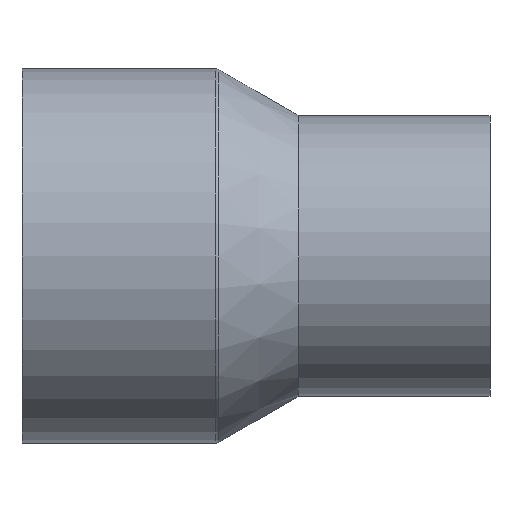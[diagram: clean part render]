
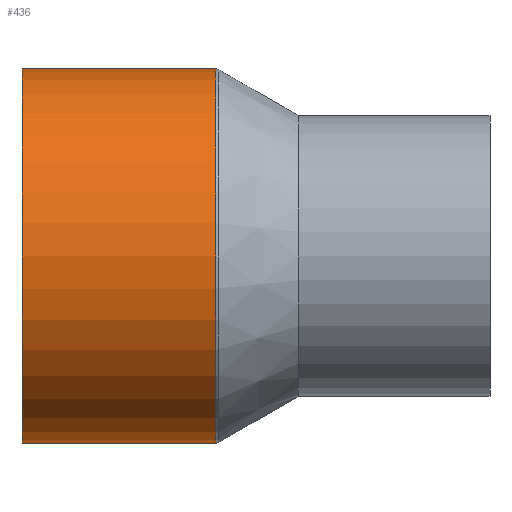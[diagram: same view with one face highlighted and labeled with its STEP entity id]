
A CAD part, front view. The second image highlights one B-rep face of the part: STEP entity #436.
In plain terms, the highlighted cylindrical face has radius 25.4 mm (diameter 50.8 mm), a partial arc.
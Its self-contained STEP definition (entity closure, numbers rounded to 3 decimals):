
#5 = CARTESIAN_POINT ( 'NONE',  ( -37.213, 0., 25.4 ) ) ;
#30 = CARTESIAN_POINT ( 'NONE',  ( -37.213, 0., 0. ) ) ;
#32 = CARTESIAN_POINT ( 'NONE',  ( -63.5, 0., 25.4 ) ) ;
#54 = VERTEX_POINT ( 'NONE', #370 ) ;
#59 = FACE_OUTER_BOUND ( 'NONE', #297, .T. ) ;
#64 = ORIENTED_EDGE ( 'NONE', *, *, #494, .F. ) ;
#73 = DIRECTION ( 'NONE',  ( 0., 0., 1. ) ) ;
#84 = ORIENTED_EDGE ( 'NONE', *, *, #125, .T. ) ;
#94 = CIRCLE ( 'NONE', #214, 25.4 ) ;
#96 = VERTEX_POINT ( 'NONE', #434 ) ;
#111 = CARTESIAN_POINT ( 'NONE',  ( 0., 0., -25.4 ) ) ;
#117 = DIRECTION ( 'NONE',  ( 1., 0., 0. ) ) ;
#125 = EDGE_CURVE ( 'NONE', #96, #54, #496, .T. ) ;
#183 = DIRECTION ( 'NONE',  ( 1., 0., 0. ) ) ;
#214 = AXIS2_PLACEMENT_3D ( 'NONE', #426, #183, #474 ) ;
#227 = DIRECTION ( 'NONE',  ( 0., 0., -1. ) ) ;
#258 = VERTEX_POINT ( 'NONE', #5 ) ;
#271 = DIRECTION ( 'NONE',  ( 1., 0., 0. ) ) ;
#293 = AXIS2_PLACEMENT_3D ( 'NONE', #30, #305, #73 ) ;
#297 = EDGE_LOOP ( 'NONE', ( #64, #320, #84, #413 ) ) ;
#305 = DIRECTION ( 'NONE',  ( -1., 0., 0. ) ) ;
#307 = CARTESIAN_POINT ( 'NONE',  ( 0., 0., 0. ) ) ;
#320 = ORIENTED_EDGE ( 'NONE', *, *, #376, .T. ) ;
#360 = CYLINDRICAL_SURFACE ( 'NONE', #489, 25.4 ) ;
#370 = CARTESIAN_POINT ( 'NONE',  ( -37.213, 0., -25.4 ) ) ;
#375 = LINE ( 'NONE', #517, #464 ) ;
#376 = EDGE_CURVE ( 'NONE', #433, #96, #94, .T. ) ;
#389 = VECTOR ( 'NONE', #117, 1000. ) ;
#390 = DIRECTION ( 'NONE',  ( 1., 0., 0. ) ) ;
#403 = EDGE_CURVE ( 'NONE', #54, #258, #503, .T. ) ;
#413 = ORIENTED_EDGE ( 'NONE', *, *, #403, .T. ) ;
#426 = CARTESIAN_POINT ( 'NONE',  ( -63.5, 0., 0. ) ) ;
#433 = VERTEX_POINT ( 'NONE', #32 ) ;
#434 = CARTESIAN_POINT ( 'NONE',  ( -63.5, 0., -25.4 ) ) ;
#436 = ADVANCED_FACE ( 'NONE', ( #59 ), #360, .T. ) ;
#464 = VECTOR ( 'NONE', #271, 1000. ) ;
#474 = DIRECTION ( 'NONE',  ( 0., 0., -1. ) ) ;
#489 = AXIS2_PLACEMENT_3D ( 'NONE', #307, #390, #227 ) ;
#494 = EDGE_CURVE ( 'NONE', #433, #258, #375, .T. ) ;
#496 = LINE ( 'NONE', #111, #389 ) ;
#503 = CIRCLE ( 'NONE', #293, 25.4 ) ;
#517 = CARTESIAN_POINT ( 'NONE',  ( 0., 0., 25.4 ) ) ;
